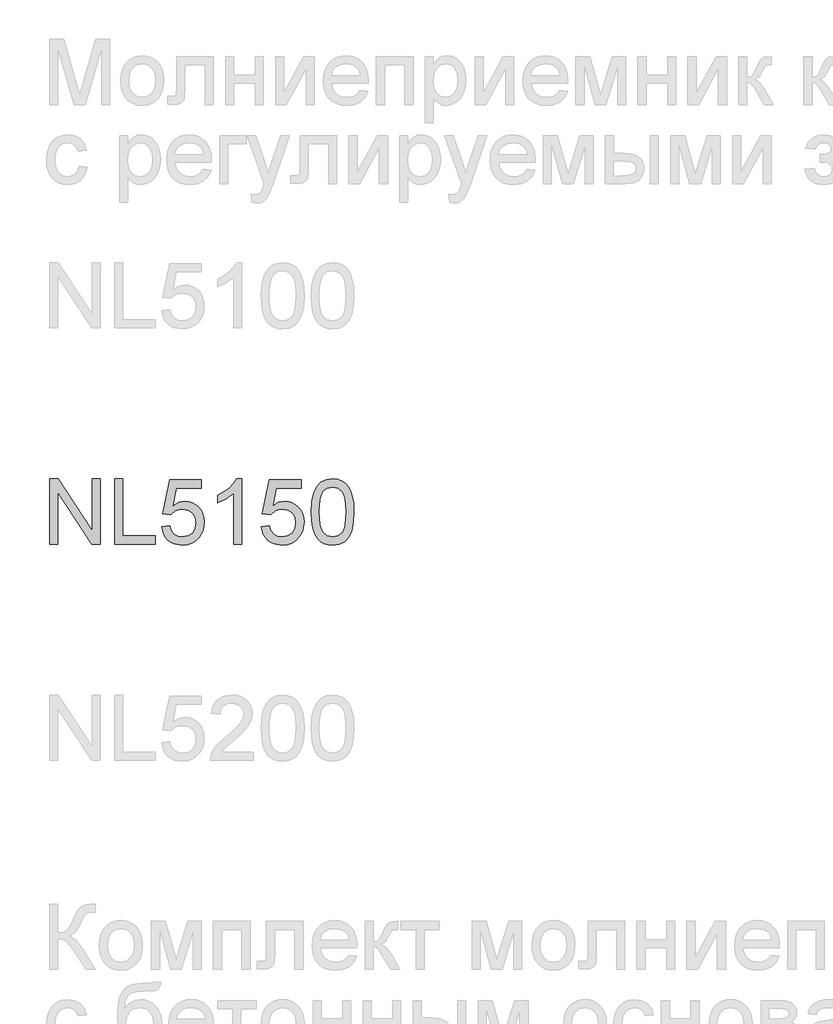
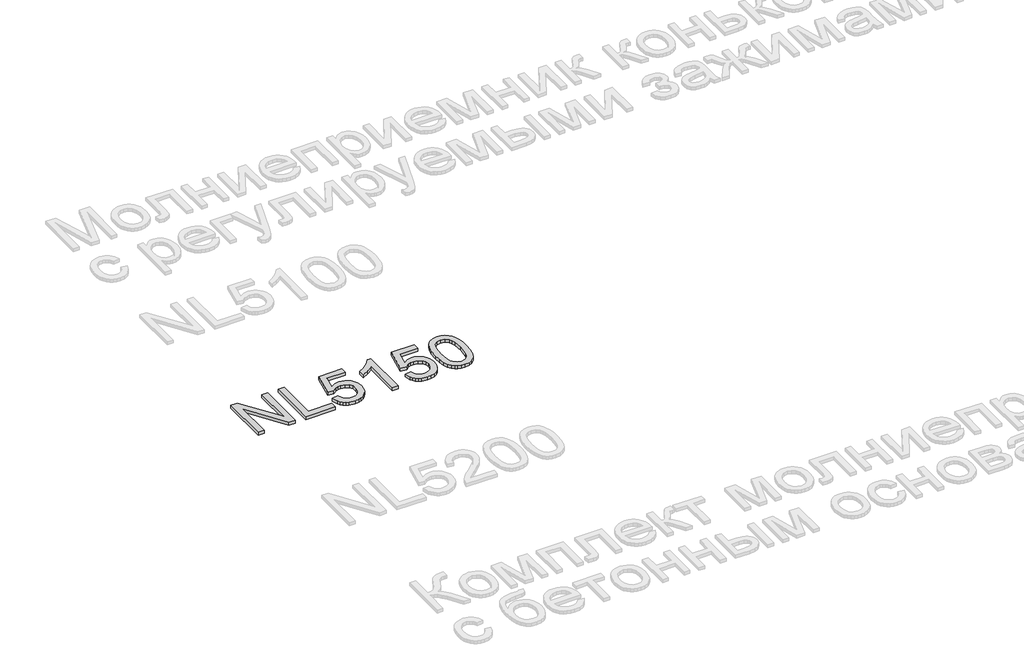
# One storey, part 62 of 124: 1 proxy.
"""IFC4 building model written with IfcOpenShell, lengths in millimetres."""

from ifc_helpers import new_model, si_unit, origin, origin_with_axes, place, context, project, spatial, polyline, outline, extrude, element, save

model = new_model("IFC4")

# Units and contexts
model_context = context("Model", 3, world=origin())
ifc_project = project(units=[si_unit("LENGTHUNIT", "METRE", prefix="MILLI")], contexts=[model_context])

# Site, building, storey
site = spatial("IfcSite", under=ifc_project)
building = spatial("IfcBuilding", under=site)
storey = spatial("IfcBuildingStorey", under=building, Name="Этаж 01", Elevation=0.0)

# Proxy
placement = place(None, origin())
element("IfcBuildingElementProxy", 1, Name="300", ObjectType="300", at=placement, inside=storey, context=model_context, shape_type="SweptSolid", body=[
    extrude(outline(polyline([(10399.8220677, -53107.4605888), (10399.8220677, -52806.0916583), (10440.1419344, -52806.0916583), (10597.5954283, -53044.8470732), (10597.5954283, -52806.0916583), (10635.2665446, -52806.0916583), (10635.2665446, -53107.4605888), (10594.9466779, -53107.4605888), (10437.493184, -52868.6315975), (10437.493184, -53107.4605888), (10399.8220677, -53107.4605888)])), origin_with_axes(), (0.0, 0.0, 1.0), 20.0),
    extrude(outline(polyline([(10701.1909981, -53107.4605888), (10701.1909981, -52806.0916583), (10738.8621144, -52806.0916583), (10738.8621144, -53069.7894725), (10889.5465797, -53069.7894725), (10889.5465797, -53107.4605888), (10701.1909981, -53107.4605888)])), origin_with_axes(), (0.0, 0.0, 1.0), 20.0),
    extrude(outline(polyline([(10917.7999169, -53027.4094666), (10955.4710332, -53022.7005771), (10962.3872147, -53045.3161227), (10974.4537442, -53061.5121276), (10991.6154392, -53071.2518034), (11013.8171176, -53074.498362), (11040.8196561, -53069.9826105), (11061.0531658, -53056.435356), (11073.6899124, -53035.4200971), (11077.9021612, -53008.5003321), (11073.9566268, -52983.1532626), (11062.1200236, -52963.7658815), (11042.3003811, -52951.4602287), (11014.4057288, -52947.3583445), (10996.1311907, -52948.9954193), (10981.3331375, -52953.906644), (10960.1799227, -52970.9027922), (10922.5088064, -52966.1939026), (10955.4710332, -52810.8005479), (11101.4466089, -52810.8005479), (11101.4466089, -52848.4716642), (10985.9316624, -52848.4716642), (10969.818431, -52931.4658423), (10996.728999, -52915.1318817), (11024.9271539, -52909.6872282), (11043.2729691, -52911.3748868), (11060.1242638, -52916.4378628), (11075.4810378, -52924.876156), (11089.3432913, -52936.6897666), (11100.8189102, -52951.1567261), (11109.0157809, -52967.555066), (11113.9339034, -52985.8847864), (11115.5732775, -53006.1458873), (11109.6687715, -53043.8170036), (11102.288139, -53060.6108167), (11091.9552534, -53076.0434664), (11076.3018745, -53091.8485966), (11058.0365335, -53103.1379753), (11037.1592302, -53109.9116026), (11013.6699648, -53112.1694783), (10976.6702332, -53106.3661398), (10960.9915624, -53099.1119667), (10947.1936883, -53088.9561244), (10935.7134708, -53076.4044506), (10926.9877697, -53061.962783), (10917.7999169, -53027.4094666)])), origin_with_axes(), (0.0, 0.0, 1.0), 20.0),
    extrude(outline(polyline([(11289.8021904, -53107.4605888), (11252.1310741, -53107.4605888), (11252.1310741, -52872.604723), (11216.4465206, -52898.0253689), (11176.7888415, -52917.0448681), (11176.7888415, -52881.4338909), (11206.375751, -52865.3390536), (11232.007929, -52846.1907958), (11252.2138476, -52825.8285274), (11265.5219787, -52806.0916583), (11289.8021904, -52806.0916583), (11289.8021904, -53107.4605888)])), origin_with_axes(), (0.0, 0.0, 1.0), 20.0),
    extrude(outline(polyline([(11379.2710917, -53027.4094666), (11416.942208, -53022.7005771), (11423.8583895, -53045.3161227), (11435.9249189, -53061.5121276), (11453.086614, -53071.2518034), (11475.2882924, -53074.498362), (11502.2908308, -53069.9826105), (11522.5243406, -53056.435356), (11535.1610871, -53035.4200971), (11539.373336, -53008.5003321), (11535.4278016, -52983.1532626), (11523.5911984, -52963.7658815), (11503.7715559, -52951.4602287), (11475.8769036, -52947.3583445), (11457.6023655, -52948.9954193), (11442.8043122, -52953.906644), (11421.6510975, -52970.9027922), (11383.9799812, -52966.1939026), (11416.942208, -52810.8005479), (11562.9177836, -52810.8005479), (11562.9177836, -52848.4716642), (11447.4028372, -52848.4716642), (11431.2896058, -52931.4658423), (11458.2001737, -52915.1318817), (11486.3983286, -52909.6872282), (11504.7441439, -52911.3748868), (11521.5954385, -52916.4378628), (11536.9522126, -52924.876156), (11550.814466, -52936.6897666), (11562.290085, -52951.1567261), (11570.4869557, -52967.555066), (11575.4050781, -52985.8847864), (11577.0444523, -53006.1458873), (11571.1399462, -53043.8170036), (11563.7593137, -53060.6108167), (11553.4264282, -53076.0434664), (11537.7730493, -53091.8485966), (11519.5077082, -53103.1379753), (11498.630405, -53109.9116026), (11475.1411396, -53112.1694783), (11438.1414079, -53106.3661398), (11422.4627371, -53099.1119667), (11408.6648631, -53088.9561244), (11397.1846456, -53076.4044506), (11388.4589445, -53061.962783), (11379.2710917, -53027.4094666)])), origin_with_axes(), (0.0, 0.0, 1.0), 20.0),
    extrude(outline(polyline([(11610.006679, -52959.2041447), (11612.774991, -52910.9656181), (11621.0799271, -52872.4943585), (11634.8387137, -52843.2017546), (11653.9685775, -52822.4991953), (11678.6074741, -52810.1935426), (11708.8933593, -52806.0916583), (11732.1067132, -52808.5196795), (11752.892046, -52815.803743), (11770.2744702, -52827.6587403), (11783.2790988, -52843.7995628), (11793.101548, -52864.0882549), (11800.9374345, -52888.3868606), (11806.0693884, -52919.242963), (11807.7800396, -52959.2041447), (11805.0393188, -53007.1667598), (11796.8171562, -53045.546049), (11783.141143, -53074.866244), (11764.0388704, -53095.6515767), (11739.3447915, -53108.0400029), (11708.8933593, -53112.1694783), (11688.1448148, -53110.3760536), (11669.750715, -53104.9957794), (11653.7110601, -53096.0286558), (11640.0258498, -53083.4746827), (11626.8924626, -53060.7809621), (11617.5114717, -53032.5046323), (11611.8828772, -52998.6456931), (11610.006679, -52959.2041447)]), holes=[polyline([(11647.6777953, -52959.1305683), (11652.0923793, -53018.3871607), (11657.6106092, -53038.6551594), (11665.3361311, -53052.6829597), (11685.054606, -53069.0445114), (11708.8933593, -53074.498362), (11732.7321126, -53069.0261173), (11752.4505876, -53052.6093833), (11760.1761095, -53038.5585903), (11765.6943394, -53018.2951902), (11770.1089233, -52959.1305683), (11765.8414922, -52901.2075482), (11760.5072033, -52881.0062281), (11753.0391988, -52866.6450347), (11733.357512, -52849.4833397), (11708.4519009, -52843.7627746), (11684.870665, -52848.802758), (11665.9247423, -52863.922708), (11657.941703, -52879.5576928), (11652.2395321, -52900.6373311), (11647.6777953, -52959.1305683)])]), origin_with_axes(), (0.0, 0.0, 1.0), 20.0),
])

save(model, "model.ifc")
